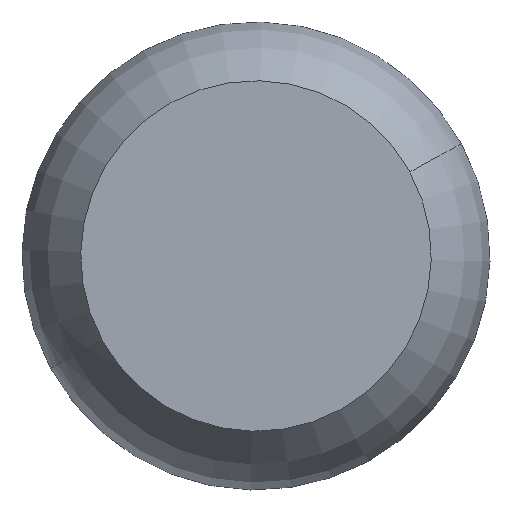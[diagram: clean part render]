
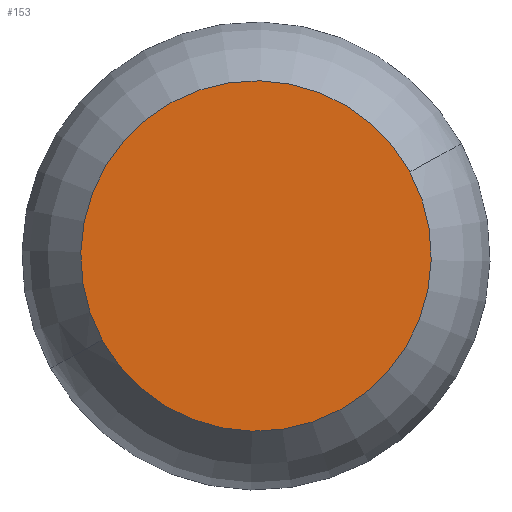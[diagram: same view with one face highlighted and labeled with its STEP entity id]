
A CAD part, front view. The second image highlights one B-rep face of the part: STEP entity #153.
In plain terms, the highlighted planar face has unit normal (0, -1, 0).
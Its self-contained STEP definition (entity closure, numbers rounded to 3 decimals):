
#66=CARTESIAN_POINT('Axis2P3D Location',(0.,0.,0.)) ;
#70=CARTESIAN_POINT('Vertex',(82.493,0.,45.066)) ;
#72=CARTESIAN_POINT('Vertex',(-82.493,0.,-45.066)) ;
#127=CARTESIAN_POINT('Axis2P3D Location',(0.,0.,0.)) ;
#144=CARTESIAN_POINT('Axis2P3D Location',(0.,0.,0.)) ;
#67=DIRECTION('Axis2P3D Direction',(0.,-1.,0.)) ;
#128=DIRECTION('Axis2P3D Direction',(0.,-1.,0.)) ;
#145=DIRECTION('Axis2P3D Direction',(0.,-1.,0.)) ;
#146=DIRECTION('Axis2P3D XDirection',(1.,0.,0.)) ;
#68=AXIS2_PLACEMENT_3D('Circle Axis2P3D',#66,#67,$) ;
#129=AXIS2_PLACEMENT_3D('Circle Axis2P3D',#127,#128,$) ;
#147=AXIS2_PLACEMENT_3D('Plane Axis2P3D',#144,#145,#146) ;
#150=ORIENTED_EDGE('',*,*,#74,.T.) ;
#151=ORIENTED_EDGE('',*,*,#131,.T.) ;
#153=ADVANCED_FACE('PartBody',(#152),#148,.T.) ;
#69=CIRCLE('generated circle',#68,94.) ;
#130=CIRCLE('generated circle',#129,94.) ;
#74=EDGE_CURVE('',#71,#73,#69,.T.) ;
#131=EDGE_CURVE('',#73,#71,#130,.T.) ;
#149=EDGE_LOOP('',(#150,#151)) ;
#152=FACE_OUTER_BOUND('',#149,.T.) ;
#148=PLANE('',#147) ;
#71=VERTEX_POINT('',#70) ;
#73=VERTEX_POINT('',#72) ;
